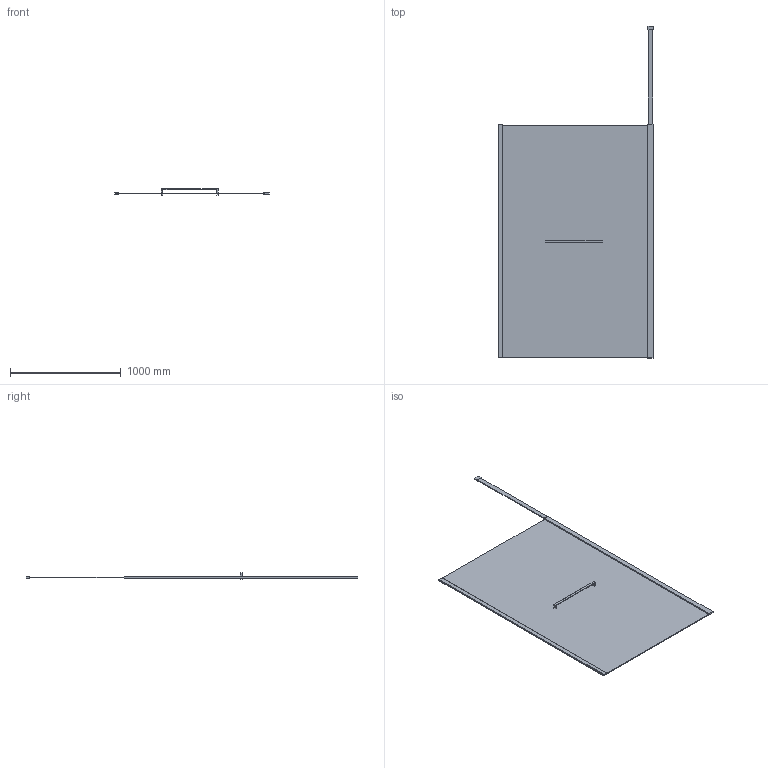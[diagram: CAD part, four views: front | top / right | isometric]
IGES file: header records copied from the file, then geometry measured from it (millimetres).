
Start section: SolidWorks IGES file using analytic representation for surfaces
Global section: file name: D:\Users\M.Szymanski\Desktop\Kabiny\PI_ALTIIa\PI_ALTIIa_140_wspornik pionowy_K3D.IGS; native system: SolidWorks 2011; preprocessor: SolidWorks 2011; author: M.Szymanski; date: 181002.134445; units: millimetre
Bounding box: 1399.9 x 3000 x 54.5 mm (x, y, z)
Surface area: 6527224.2 mm2 (no closed solid volume)
Topology: 0 solids, 0 shells, 49 faces, 324 edges, 432 vertices
Faces by surface type: bspline 49
